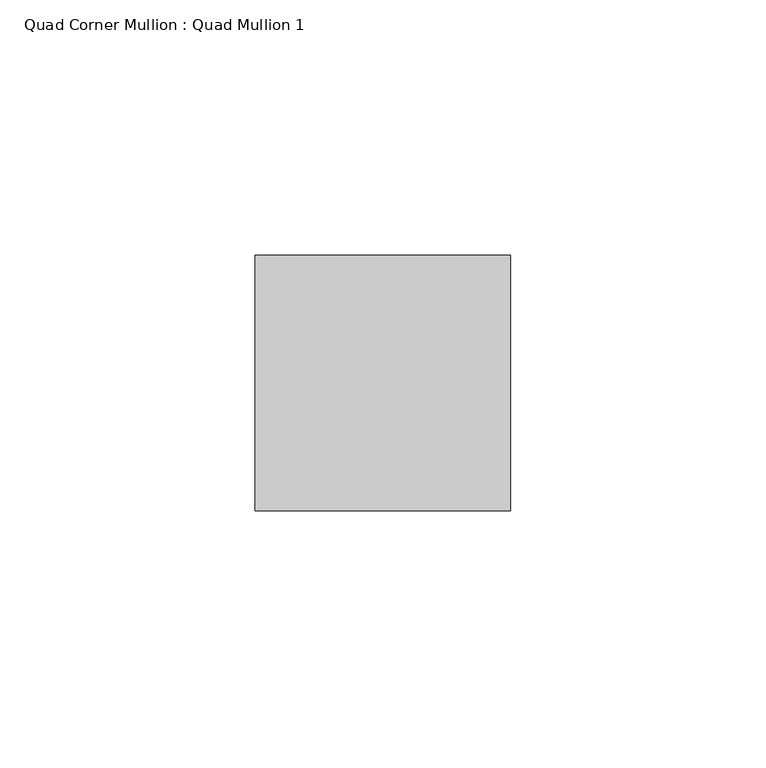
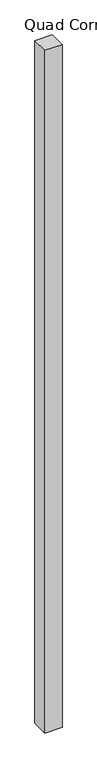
"""IFC4 building model written with IfcOpenShell, lengths in millimetres: member geometry, Quad Corner Mullion : Quad Mullion 1."""

from ifc_helpers import new_model, si_unit, frame, origin, place, context, project, spatial, polyline, outline, extrude, source, transform, mapped, element, save


def quad_corner_mullion_quad_mullion_1_447b548d(model_context):
    return source(origin(), model_context, "Body", "SweptSolid", [
        extrude(outline(polyline([(25.0, 25.0), (25.0, -25.0), (-25.0, -25.0), (-25.0, 25.0), (25.0, 25.0)])), frame((0.0, 0.0, -2097.0758196), z_axis=(0.0, 0.0, 1.0), x_axis=(1.0, 0.0, 0.0)), (0.0, 0.0, 1.0), 2097.0758196),
    ])


if __name__ == "__main__":
    model = new_model("IFC4")
    model_context = context("Model", 3, world=origin())
    ifc_project = project(units=[si_unit("LENGTHUNIT", "METRE", prefix="MILLI")], contexts=[model_context])
    site = spatial("IfcSite", under=ifc_project)
    building = spatial("IfcBuilding", under=site)
    placement = place(None, origin())
    quad_corner_mullion_quad_mullion_1_shape = quad_corner_mullion_quad_mullion_1_447b548d(model_context)
    element("IfcMember", 1, ObjectType="Quad Corner Mullion : Quad Mullion 1", at=placement, inside=building, context=model_context, shape_type="MappedRepresentation", body=[
        mapped(quad_corner_mullion_quad_mullion_1_shape, transform((0.0, 0.0, 0.0), x_axis=(1.0, 0.0, 0.0), y_axis=(0.0, 1.0, 0.0), z_axis=(0.0, 0.0, 1.0))),
    ])
    save(model, "model.ifc")
